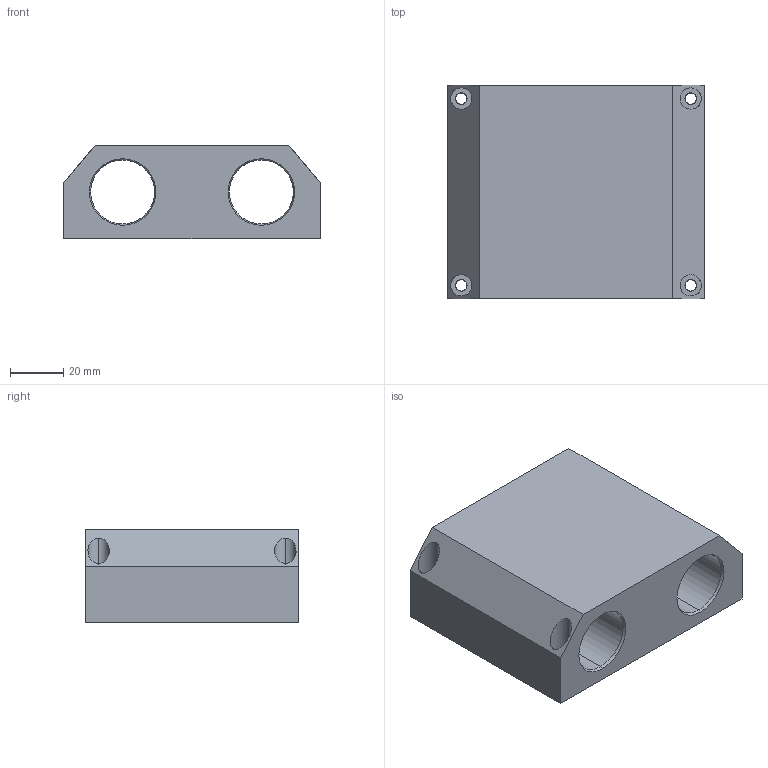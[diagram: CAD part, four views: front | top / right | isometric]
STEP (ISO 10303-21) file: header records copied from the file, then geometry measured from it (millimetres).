
FILE_DESCRIPTION (( 'STEP AP214' ), '1' );
FILE_NAME ('KQSGC-16.step', '2020-03-04T13:10:29', ( '' ), ( '' ), 'SwSTEP 2.0', 'SolidWorks 2019', '' );
FILE_SCHEMA (( 'AUTOMOTIVE_DESIGN' ));
Length unit declared in the file: millimetre
Products named in the file (1): KQSGC-16
Bounding box: 96 x 80 x 35 mm (x, y, z)
Volume: 180141.2 mm3; surface area: 38028.8 mm2
Topology: 1 solids, 1 shells, 58 faces, 132 edges, 83 vertices
Faces by surface type: cylinder 30, plane 16, cone 12
Entity records: 1774 total; most frequent: DIRECTION 302, CARTESIAN_POINT 296, ORIENTED_EDGE 260, EDGE_CURVE 130, AXIS2_PLACEMENT_3D 121, VERTEX_POINT 83, EDGE_LOOP 79, CIRCLE 62
